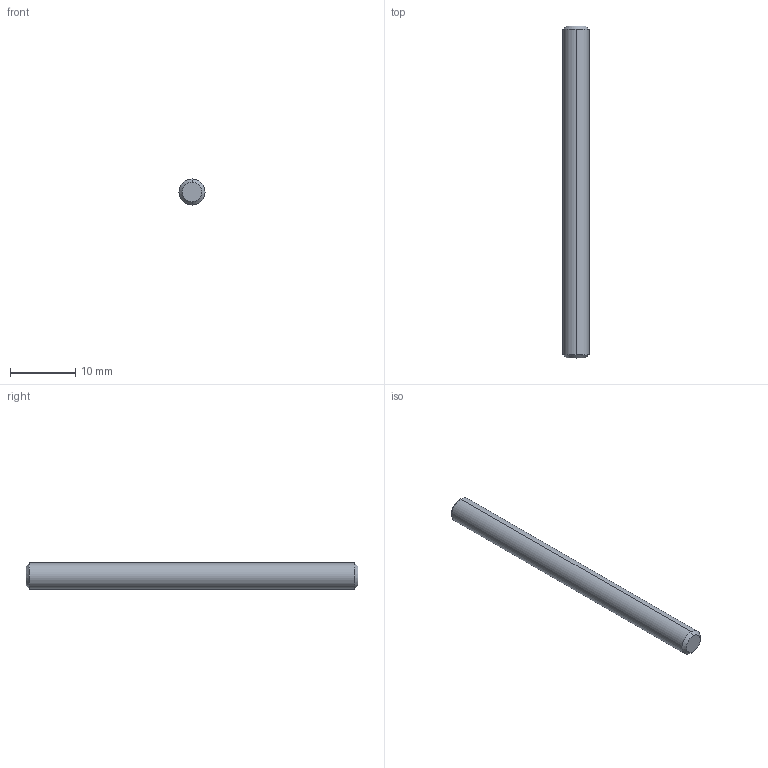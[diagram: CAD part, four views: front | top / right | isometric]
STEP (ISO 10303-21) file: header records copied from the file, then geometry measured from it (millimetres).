
FILE_DESCRIPTION (( 'STEP AP214' ), '1' );
FILE_NAME ('結裝.STEP', '2024-11-14T11:38:52', ( '' ), ( '' ), 'SwSTEP 2.0', 'SolidWorks 2021', '' );
FILE_SCHEMA (( 'AUTOMOTIVE_DESIGN' ));
Length unit declared in the file: millimetre
Products named in the file (1): 結裝
Bounding box: 4 x 51 x 4 mm (x, y, z)
Volume: 638 mm3; surface area: 658 mm2
Topology: 1 solids, 1 shells, 8 faces, 14 edges, 8 vertices
Faces by surface type: cone 4, cylinder 2, plane 2
Entity records: 250 total; most frequent: DIRECTION 40, CARTESIAN_POINT 31, ORIENTED_EDGE 28, AXIS2_PLACEMENT_3D 17, EDGE_CURVE 14, FACE_OUTER_BOUND 8, EDGE_LOOP 8, VERTEX_POINT 8
